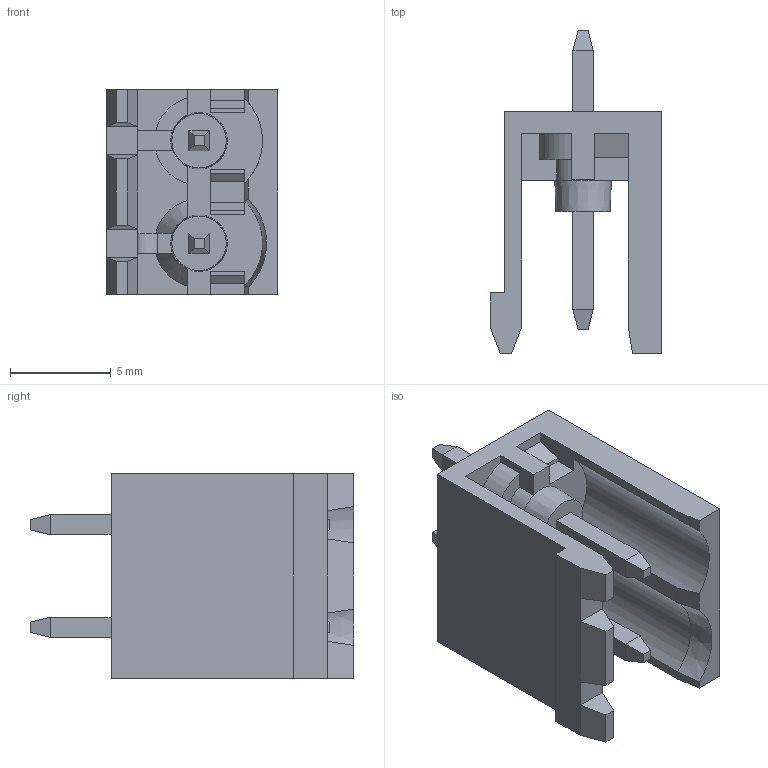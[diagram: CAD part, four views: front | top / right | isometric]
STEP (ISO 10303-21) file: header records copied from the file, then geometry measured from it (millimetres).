
FILE_DESCRIPTION (( 'STEP AP203' ), '1' );
FILE_NAME ('BR8MC1-02.STEP', '2020-03-18T02:38:40', ( '' ), ( '' ), 'SwSTEP 2.0', 'SolidWorks 2019', '' );
FILE_SCHEMA (( 'CONFIG_CONTROL_DESIGN' ));
Length unit declared in the file: millimetre
Products named in the file (1): BR8MC1-02
Bounding box: 8.5 x 16.03 x 10.16 mm (x, y, z)
Volume: 388.4 mm3; surface area: 925.1 mm2
Topology: 1 solids, 1 shells, 185 faces, 486 edges, 303 vertices
Faces by surface type: plane 163, cylinder 11, cone 7, sphere 4
Entity records: 5588 total; most frequent: CARTESIAN_POINT 1022, ORIENTED_EDGE 956, DIRECTION 877, EDGE_CURVE 478, LINE 421, VECTOR 421, VERTEX_POINT 299, AXIS2_PLACEMENT_3D 228
